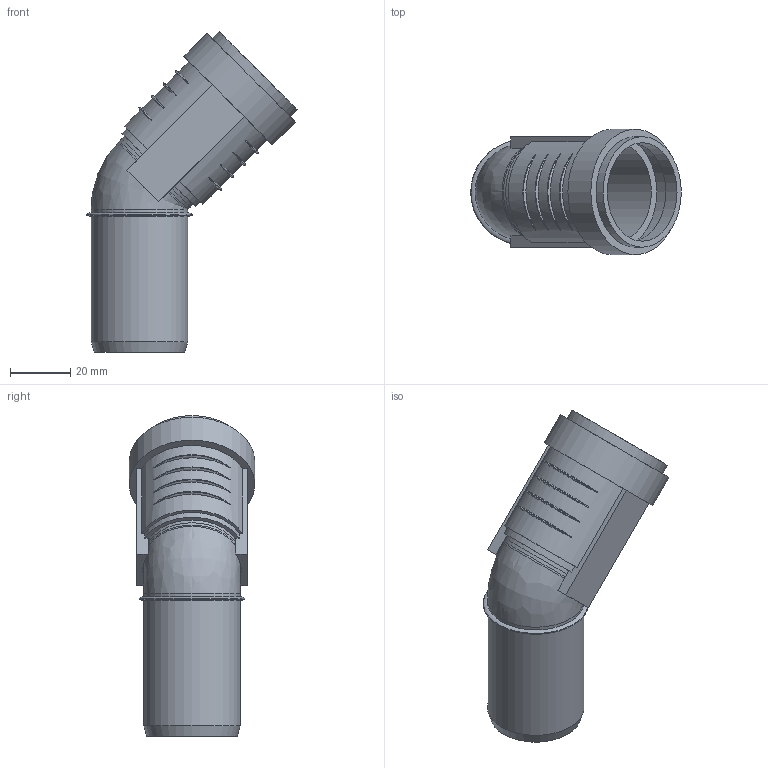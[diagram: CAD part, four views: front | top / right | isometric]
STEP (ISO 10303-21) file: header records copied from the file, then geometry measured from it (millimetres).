
FILE_DESCRIPTION(/* description */ (''),/* implementation_level */ '2;1');
FILE_NAME(/* name */ 'Z:\Geberit\Export\NewStep\390022.stp',/* time_stamp */ '2014-04-02T08:08:07+02:00',/* author */ ('ML'),/* organization */ (''),/* preprocessor_version */ 'ST-DEVELOPER v15.2',/* originating_system */ 'Autodesk Inventor 2014',/* authorisation */ '');
FILE_SCHEMA (('AUTOMOTIVE_DESIGN { 1 0 10303 214 3 1 1 }'));
Length unit declared in the file: millimetre
Products named in the file (3): 861578; 861632; 390022
Bounding box: 70.11 x 41.8 x 106.83 mm (x, y, z)
Volume: 25625.2 mm3; surface area: 26026.4 mm2
Topology: 2 solids, 2 shells, 68 faces, 162 edges, 109 vertices
Faces by surface type: torus 28, plane 19, cylinder 18, cone 2, bspline 1
Full cylindrical faces by diameter (mm): 28.15 x3, 32.15 x4, 32.8 x2, 36.8 x1, 37.8 x1, 41.8 x1
Entity records: 2662 total; most frequent: CARTESIAN_POINT 1086, DIRECTION 290, ORIENTED_EDGE 278, EDGE_CURVE 139, AXIS2_PLACEMENT_3D 127, VERTEX_POINT 106, EDGE_LOOP 103, STYLED_ITEM 70
